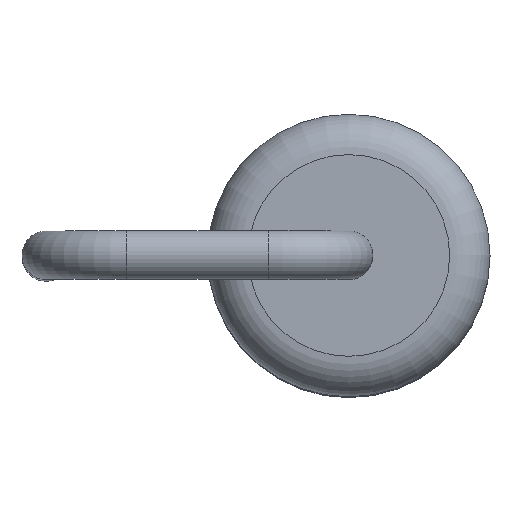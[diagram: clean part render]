
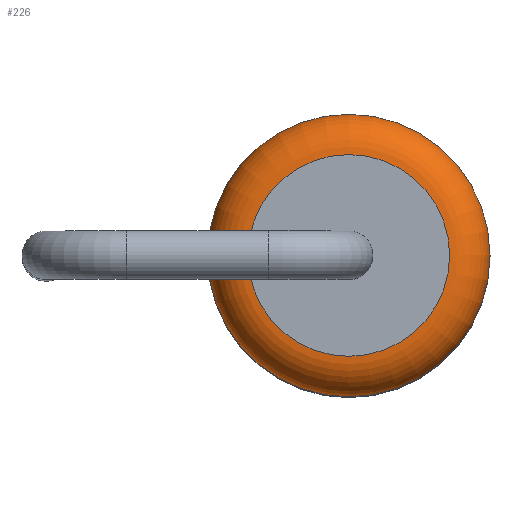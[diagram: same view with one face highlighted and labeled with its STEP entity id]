
A CAD part, top view. The second image highlights one B-rep face of the part: STEP entity #226.
In plain terms, the highlighted toroidal (fillet/blend) face has major radius 1.25 mm and minor radius 0.5 mm.
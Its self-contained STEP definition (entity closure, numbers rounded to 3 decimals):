
#226=ADVANCED_FACE('',(#413,#415),#417,.T.);
#413=FACE_OUTER_BOUND('',#414,.T.);
#414=EDGE_LOOP('',(#508));
#415=FACE_OUTER_BOUND('',#416,.T.);
#416=EDGE_LOOP('',(#509));
#417=TOROIDAL_SURFACE('',#418,1.25,0.5);
#418=AXIS2_PLACEMENT_3D('',#419,#420,#421);
#419=CARTESIAN_POINT('',(0.,0.,3.5));
#420=DIRECTION('',(0.,0.,1.));
#421=DIRECTION('',(1.,0.,0.));
#508=ORIENTED_EDGE('',*,*,#535,.T.);
#509=ORIENTED_EDGE('',*,*,#536,.F.);
#535=EDGE_CURVE('',#567,#567,#568,.T.);
#536=EDGE_CURVE('',#569,#569,#570,.T.);
#567=VERTEX_POINT('',#643);
#568=CIRCLE('',#644,1.75);
#569=VERTEX_POINT('',#648);
#570=CIRCLE('',#649,1.25);
#643=CARTESIAN_POINT('',(1.75,0.,3.5));
#644=AXIS2_PLACEMENT_3D('',#645,#646,#647);
#645=CARTESIAN_POINT('',(0.,0.,3.5));
#646=DIRECTION('',(0.,0.,1.));
#647=DIRECTION('',(1.,0.,0.));
#648=CARTESIAN_POINT('',(1.25,0.,4.));
#649=AXIS2_PLACEMENT_3D('',#650,#651,#652);
#650=CARTESIAN_POINT('',(0.,0.,4.));
#651=DIRECTION('',(0.,0.,1.));
#652=DIRECTION('',(1.,0.,0.));
